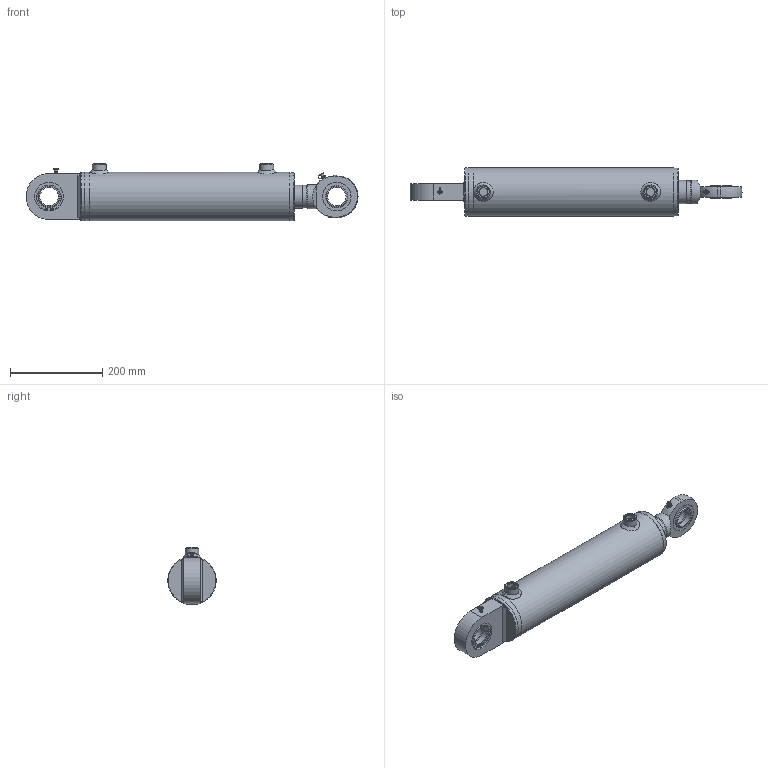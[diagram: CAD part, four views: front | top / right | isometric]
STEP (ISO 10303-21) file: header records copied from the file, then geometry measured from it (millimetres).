
FILE_DESCRIPTION( ( 'Unknown' ), '1' );
FILE_NAME( 'E:/LIBRERIA_3d/CILINDRI/HMB/HMB090500300.stp', 'Unknown', ( 'Unknown' ), ( 'Unknown' ), 'PSStep 17.0.49', 'Unknown', ' ' );
FILE_SCHEMA( ( 'AUTOMOTIVE_DESIGN { 1 0 10303 214 1 1 1 1 }' ) );
Length unit declared in the file: millimetre
Products named in the file (38): CG10509050; CT00090033; STL0901050300-oa6; Saldatura d'angolo 1-oa4; MAT_PRIMA_TUBO_FT10509000-oa5; CBSC220800; CSTSF040N0; AN00006001; CSTS040N_CORPO-oa0; CSCSEI0062; CSCSEI0062-oa1; CSTSF040C0; tsc40c_CORPO; CSTS040C00; CGE0400000; APGR013000; HM0090500300; CF00090105; SBL0500900300; CBS0800000; APG0800000; CDA0003320; Saldatura con preparazione 1-oa7; Saldatura d'angolo 1-oa8; CSTS040N00; Assem1; Saldatura d'angolo 3-oa2; Saldatura d'angolo 2-oa3
Assembly tree (30 placements, depth 4):
  Saldatura d'angolo 1-oa4
  Saldatura d'angolo 1-oa4
  Saldatura d'angolo 1-oa8
  Saldatura d'angolo 1-oa8
  Assem1
    CSTS040N00
      CGE0400000
      APGR013000
      CSTSF040N0
        AN00006001
        CSTS040N_CORPO-oa0
        CSCSEI0062
        CSCSEI0062-oa1
    CSTS040C00
      CGE0400000
      APGR013000
      CSTSF040C0
        tsc40c_CORPO
        AN00006001
    HM0090500300
      CF00090105
      SBL0500900300
      CBS0800000
      APG0800000  x2
      CDA0003320
      Saldatura con preparazione 1-oa7
      Saldatura con preparazione 1-oa7
      STL0901050300-oa6
        MAT_PRIMA_TUBO_FT10509000-oa5
        CBSC220800
      CG10509050
        CG10509050
      CT00090033
        CT00090033
Bounding box: 720 x 105 x 125 mm (x, y, z)
Volume: 3004531.3 mm3; surface area: 606299.6 mm2
Topology: 32 solids, 32 shells, 378 faces, 784 edges, 505 vertices
Faces by surface type: plane 154, cylinder 104, cone 41, torus 40, bspline 30, sphere 9
Full cylindrical faces by diameter (mm): 2.5 x8, 4 x1, 4.25 x2, 5 x6, 6 x2, 8 x4, 9 x2, 12 x1, 18.631 x2, 19.5 x2, 20.95 x2, 26 x2, 30 x2, 32.4 x1, 33 x5, 39.2 x1, 40 x4, 50 x6, 52 x1, 53 x3, 58.6 x1, 60 x1, 62 x8, 65 x2, 70 x1, 81.5 x1, 84.15 x2, 88.31 x2, 89.9 x1, 90 x1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
Entity records: 15735 total; most frequent: CARTESIAN_POINT 6479, DIRECTION 1404, ORIENTED_EDGE 932, AXIS2_PLACEMENT_3D 630, EDGE_LOOP 592, FACE_OUTER_BOUND 470, EDGE_CURVE 466, VERTEX_POINT 389
